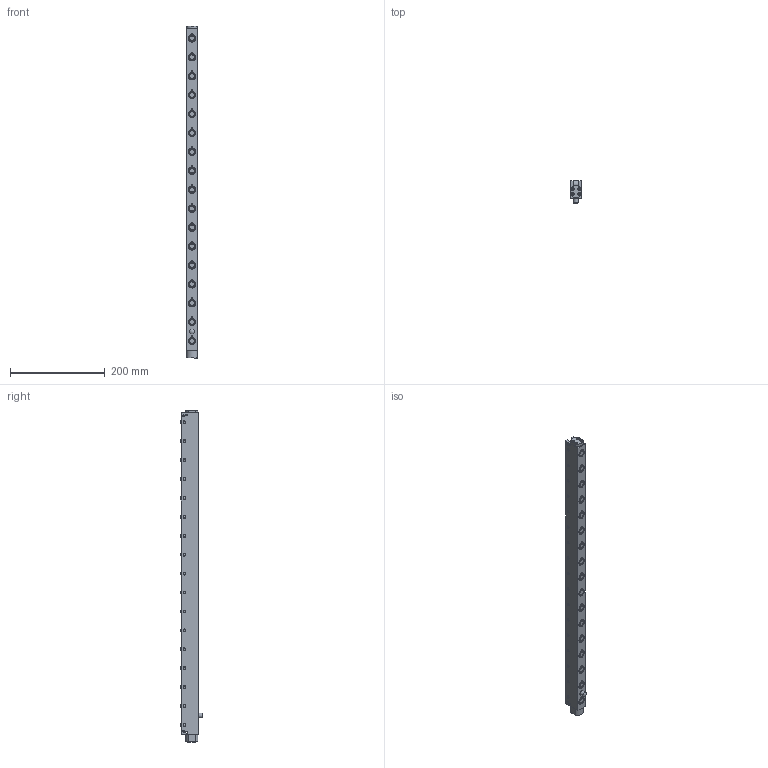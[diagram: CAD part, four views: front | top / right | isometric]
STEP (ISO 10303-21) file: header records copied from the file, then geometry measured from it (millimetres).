
FILE_DESCRIPTION(/* description */ (''),/* implementation_level */ '2;1');
FILE_NAME(/* name */ 'S:\EASCN Vault\Designs\Standard Part\DIE LIFTERS\EHR\EHR- 3D step\EHR22 - 3D step complete serie\EHR22-17.stp',/* time_stamp */ '2019-07-30T16:22:50+08:00',/* author */ ('yue.yang'),/* organization */ (''),/* preprocessor_version */ 'ST-DEVELOPER v17',/* originating_system */ 'Autodesk Inventor 2019',/* authorisation */ '');
FILE_SCHEMA (('AUTOMOTIVE_DESIGN { 1 0 10303 214 3 1 1 }'));
Length unit declared in the file: millimetre
Products named in the file (1): EHR22-17_Shrinkwrap_1
Bounding box: 21.8 x 48.05 x 702 mm (x, y, z)
Volume: 427040.3 mm3; surface area: 167134.8 mm2
Topology: 1 solids, 1 shells, 1096 faces, 3107 edges, 2160 vertices
Faces by surface type: cylinder 365, plane 311, cone 198, torus 187, sphere 35
Full cylindrical faces by diameter (mm): 3 x9, 3.2 x8, 4 x8, 5 x68, 6 x26, 8.566 x1, 10 x3, 11 x17, 12.5 x34, 13.4 x17, 13.8 x17, 15.95 x34, 16 x51
Entity records: 40217 total; most frequent: CARTESIAN_POINT 9160, DIRECTION 6900, ORIENTED_EDGE 6164, EDGE_CURVE 3082, AXIS2_PLACEMENT_3D 3052, VERTEX_POINT 2160, CIRCLE 1955, EDGE_LOOP 1318
